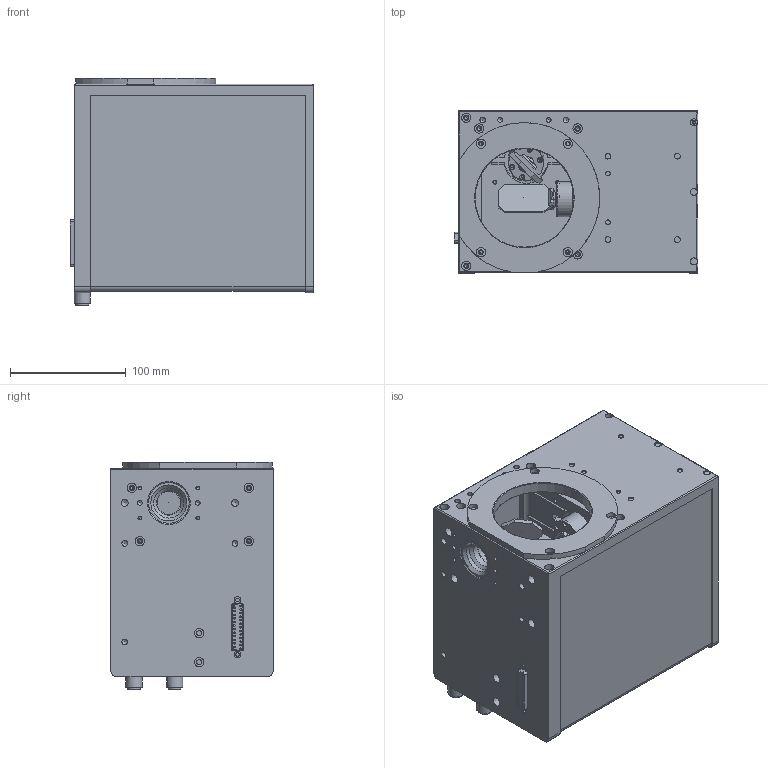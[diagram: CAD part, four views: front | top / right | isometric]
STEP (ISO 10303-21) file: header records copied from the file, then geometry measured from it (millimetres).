
FILE_DESCRIPTION( ( 'Unknown' ), '1' );
FILE_NAME( 'C:/Users/guow115776/Desktop/20mm光栅方头模型（scanlab）.stp', 'Unknown', ( 'Unknown' ), ( 'Unknown' ), 'XStep 1.0', 'Unknown', ' ' );
FILE_SCHEMA( ( 'automotive_design' ) );
Length unit declared in the file: millimetre
Products named in the file (1): 17
Bounding box: 210.5 x 140 x 196.1 mm (x, y, z)
Volume: 4228181.9 mm3; surface area: 440626 mm2
Topology: 1 solids, 20 shells, 1002 faces, 2694 edges, 1780 vertices
Faces by surface type: plane 530, cylinder 349, cone 82, extrusion 18, torus 16, bspline 7
Full cylindrical faces by diameter (mm): 0.05 x2, 0.343 x1, 0.548 x1, 1.3 x25, 1.567 x8, 2.2 x8, 2.459 x7, 3 x4, 3.05 x2, 3.2 x3, 3.242 x26, 4 x14, 4.4 x2, 4.5 x19, 4.917 x13, 5.714 x2, 6 x9, 6.5 x2, 8 x17, 11 x4, 12 x1, 14 x2, 18 x2, 20 x1, 21 x1, 26 x1, 30.48 x2, 35 x2, 85 x1
Entity records: 38722 total; most frequent: CARTESIAN_POINT 7148, DIRECTION 4938, ORIENTED_EDGE 4488, EDGE_CURVE 2244, AXIS2_PLACEMENT_3D 1872, VERTEX_POINT 1607, EDGE_LOOP 1426, VECTOR 1194
